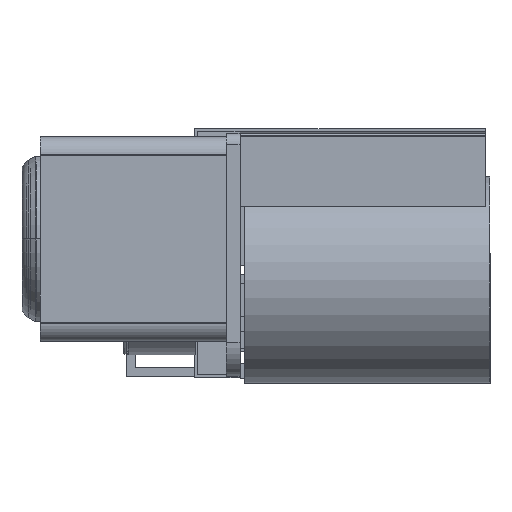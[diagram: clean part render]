
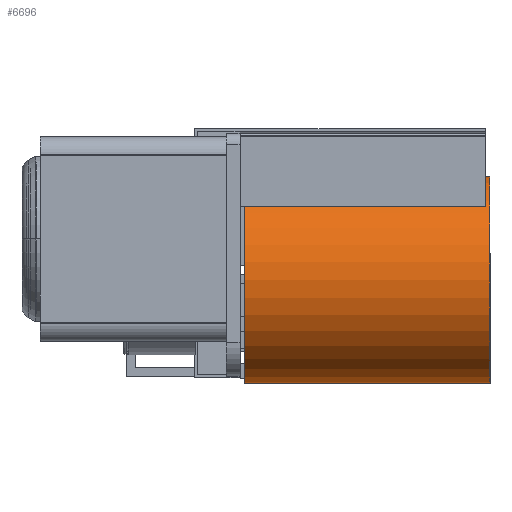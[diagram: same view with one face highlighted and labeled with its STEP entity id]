
A CAD part, left-side view. The second image highlights one B-rep face of the part: STEP entity #6696.
In plain terms, the highlighted cylindrical face has radius 45.45 mm (diameter 90.9 mm), a partial arc.
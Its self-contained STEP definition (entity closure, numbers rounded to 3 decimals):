
#144 = DIRECTION ( 'NONE',  ( 0., 0., -1. ) ) ;
#365 = LINE ( 'NONE', #5981, #17557 ) ;
#1165 = LINE ( 'NONE', #13920, #17675 ) ;
#2422 = CIRCLE ( 'NONE', #9000, 45.45 ) ;
#2447 = EDGE_CURVE ( 'NONE', #17333, #13568, #365, .T. ) ;
#4852 = ORIENTED_EDGE ( 'NONE', *, *, #9774, .T. ) ;
#5079 = EDGE_LOOP ( 'NONE', ( #17867, #16770, #4852, #17614 ) ) ;
#5184 = CYLINDRICAL_SURFACE ( 'NONE', #11308, 45.45 ) ;
#5284 = CARTESIAN_POINT ( 'NONE',  ( 45., 1612.199, 44.55 ) ) ;
#5295 = DIRECTION ( 'NONE',  ( 0., 1., 0. ) ) ;
#5333 = CIRCLE ( 'NONE', #10610, 45.45 ) ;
#5981 = CARTESIAN_POINT ( 'NONE',  ( 45., 1612.199, 90. ) ) ;
#6145 = CARTESIAN_POINT ( 'NONE',  ( 45., 0., -0.9 ) ) ;
#6462 = DIRECTION ( 'NONE',  ( 0., 0., 1. ) ) ;
#6496 = DIRECTION ( 'NONE',  ( 0., -1., 0. ) ) ;
#6593 = FACE_OUTER_BOUND ( 'NONE', #5079, .T. ) ;
#6696 = ADVANCED_FACE ( 'NONE', ( #6593 ), #5184, .T. ) ;
#6907 = DIRECTION ( 'NONE',  ( 1., 0., 0. ) ) ;
#8240 = DIRECTION ( 'NONE',  ( 0., -1., 0. ) ) ;
#8840 = DIRECTION ( 'NONE',  ( 0., -1., 0. ) ) ;
#8950 = DIRECTION ( 'NONE',  ( 0., 1., 0. ) ) ;
#9000 = AXIS2_PLACEMENT_3D ( 'NONE', #11720, #8950, #144 ) ;
#9651 = CARTESIAN_POINT ( 'NONE',  ( 45., 0., 44.55 ) ) ;
#9774 = EDGE_CURVE ( 'NONE', #13097, #17747, #1165, .T. ) ;
#10610 = AXIS2_PLACEMENT_3D ( 'NONE', #9651, #5295, #6907 ) ;
#11308 = AXIS2_PLACEMENT_3D ( 'NONE', #5284, #8240, #6462 ) ;
#11720 = CARTESIAN_POINT ( 'NONE',  ( 45., 108., 44.55 ) ) ;
#13097 = VERTEX_POINT ( 'NONE', #15202 ) ;
#13199 = EDGE_CURVE ( 'NONE', #17747, #13568, #5333, .T. ) ;
#13568 = VERTEX_POINT ( 'NONE', #16394 ) ;
#13920 = CARTESIAN_POINT ( 'NONE',  ( 45., 1612.199, -0.9 ) ) ;
#15202 = CARTESIAN_POINT ( 'NONE',  ( 45., 108., -0.9 ) ) ;
#16394 = CARTESIAN_POINT ( 'NONE',  ( 45., 0., 90. ) ) ;
#16770 = ORIENTED_EDGE ( 'NONE', *, *, #18960, .F. ) ;
#17333 = VERTEX_POINT ( 'NONE', #17992 ) ;
#17557 = VECTOR ( 'NONE', #8840, 1000. ) ;
#17614 = ORIENTED_EDGE ( 'NONE', *, *, #13199, .T. ) ;
#17675 = VECTOR ( 'NONE', #6496, 1000. ) ;
#17747 = VERTEX_POINT ( 'NONE', #6145 ) ;
#17867 = ORIENTED_EDGE ( 'NONE', *, *, #2447, .F. ) ;
#17992 = CARTESIAN_POINT ( 'NONE',  ( 45., 108., 90. ) ) ;
#18960 = EDGE_CURVE ( 'NONE', #13097, #17333, #2422, .T. ) ;
